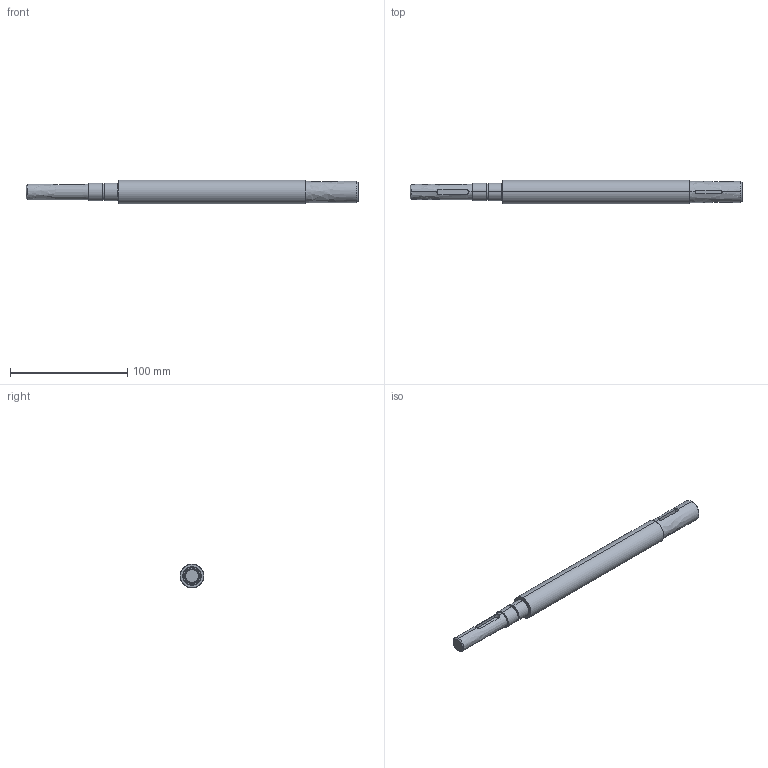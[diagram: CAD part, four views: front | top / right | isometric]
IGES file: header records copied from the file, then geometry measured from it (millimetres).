
Start section: SolidWorks IGES file using analytic representation for surfaces
Global section: file name: C:\Documents and Settings\Pc\Escritorio\Modelos 3D\Capítulo 6 (Fatiga)\PRACTICAS\P-14\PRACTICA 10-1.IGS; native system: SolidWorks 2010; preprocessor: SolidWorks 2010; author: Pc; date: 100623.114352; units: millimetre
Bounding box: 283 x 20 x 20 mm (x, y, z)
Surface area: 16835.9 mm2 (no closed solid volume)
Topology: 0 solids, 0 shells, 41 faces, 702 edges, 702 vertices
Faces by surface type: revolution 22, bspline 19
